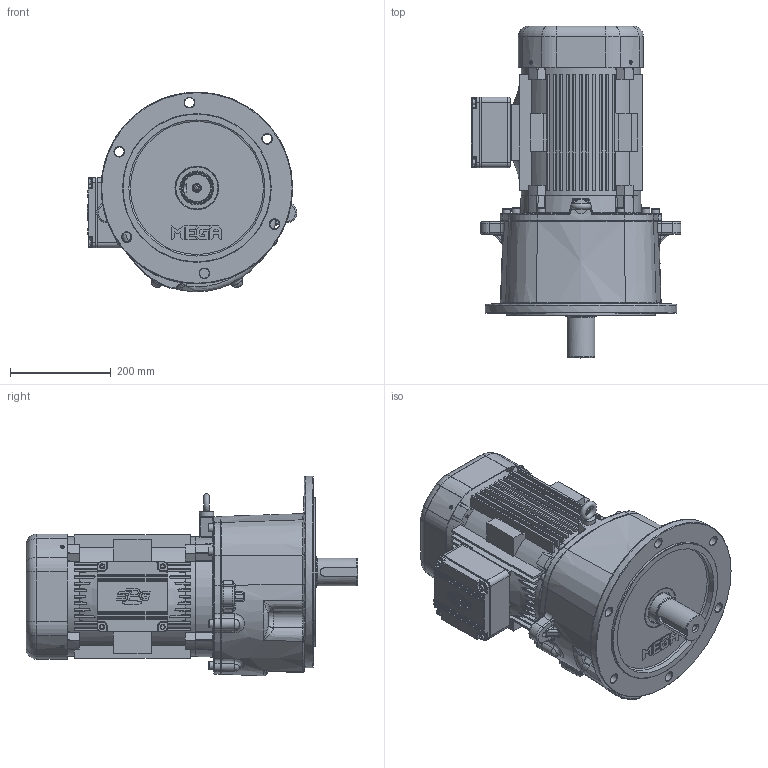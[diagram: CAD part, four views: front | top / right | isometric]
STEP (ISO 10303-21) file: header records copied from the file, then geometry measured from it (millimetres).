
FILE_DESCRIPTION(/* description */ (''),/* implementation_level */ '2;1');
FILE_NAME(/* name */ 'Z:\동력 3D 파일\PMK205_5.5kW_3D.stp',/* time_stamp */ '2021-12-01T14:36:50+09:00',/* author */ ('jaebok'),/* organization */ (''),/* preprocessor_version */ 'ST-DEVELOPER v18.1',/* originating_system */ 'Autodesk Inventor 2022',/* authorisation */ '');
FILE_SCHEMA (('AUTOMOTIVE_DESIGN { 1 0 10303 214 3 1 1 }'));
Products named in the file (1): 부품21
Bounding box: 416.4 x 658.5 x 395.96 mm (x, y, z)
Volume: 12074493.5 mm3; surface area: 2147465.5 mm2
Topology: 3 solids, 22 shells, 4219 faces, 10618 edges, 6464 vertices
Faces by surface type: plane 1356, bspline 1232, cylinder 868, torus 422, cone 186, sphere 155
Full cylindrical faces by diameter (mm): 4.134 x4, 4.917 x9, 5 x16, 6 x9, 6.5 x8, 6.647 x17, 7 x4, 8 x4, 8.376 x1, 9.5 x4, 10 x12, 10.106 x3, 12 x5, 13.2 x1, 13.835 x1, 15 x1, 16 x8, 19 x6, 20 x1, 28 x1, 32 x1, 34 x2, 44 x1, 45 x1, 50 x2, 52 x1, 55 x1, 60 x5, 62 x2, 67.5 x2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
Entity records: 154503 total; most frequent: CARTESIAN_POINT 56919, ORIENTED_EDGE 20844, DIRECTION 17196, EDGE_CURVE 10422, VERTEX_POINT 6462, AXIS2_PLACEMENT_3D 6433, EDGE_LOOP 4560, LINE 4330
